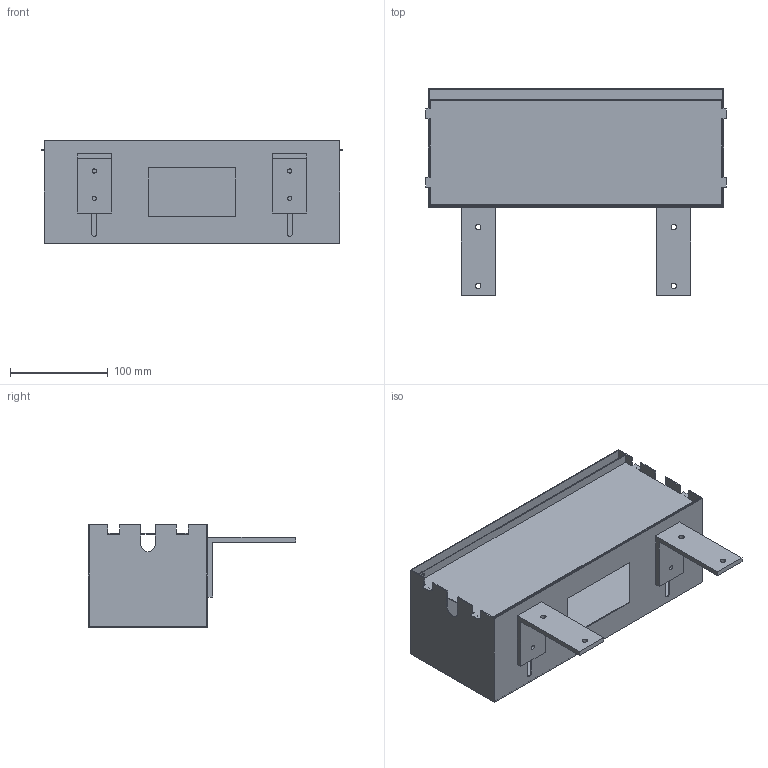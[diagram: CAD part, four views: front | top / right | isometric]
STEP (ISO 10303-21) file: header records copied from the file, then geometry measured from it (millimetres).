
FILE_DESCRIPTION( ( 'STEP AP214' ), '1' );
FILE_NAME( 'C:/Users/KOSH/Desktop/New folder/9309832.stp', '2022-01-27T11:17:19', ( '' ), ( '' ), ' ', 'PARTsolutions', ' ' );
FILE_SCHEMA( ( 'AUTOMOTIVE_DESIGN { 1 0 10303 214 1 1 1 1 }' ) );
Length unit declared in the file: millimetre
Products named in the file (4): 9309832; _300_112; _Hook_2; _300_1_3
Assembly tree (4 placements, depth 2):
  9309832
    _300_112
    _Hook_2  x2
    _300_1_3
Bounding box: 308 x 212 x 105 mm (x, y, z)
Volume: 206478.6 mm3; surface area: 339134.1 mm2
Topology: 4 solids, 4 shells, 97 faces, 272 edges, 183 vertices
Faces by surface type: plane 82, cylinder 15
Full cylindrical faces by diameter (mm): 4.2 x4, 4.5 x1, 5.5 x4
Entity records: 3458 total; most frequent: CARTESIAN_POINT 480, ORIENTED_EDGE 464, DIRECTION 434, EDGE_CURVE 232, LINE 210, VECTOR 210, VERTEX_POINT 158, AXIS2_PLACEMENT_3D 112
